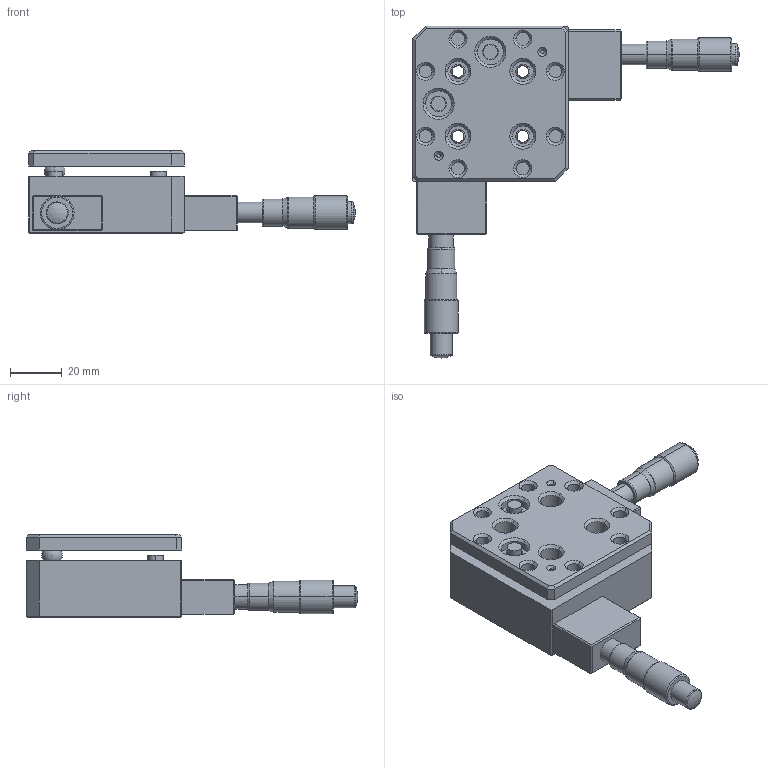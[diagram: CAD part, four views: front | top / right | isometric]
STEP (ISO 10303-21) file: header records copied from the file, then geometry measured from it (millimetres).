
FILE_DESCRIPTION (( 'STEP AP214' ), '1' );
FILE_NAME ('PT-QX04.STEP', '2022-09-17T06:27:34', ( '' ), ( '' ), 'SwSTEP 2.0', 'SolidWorks 2017', '' );
FILE_SCHEMA (( 'AUTOMOTIVE_DESIGN' ));
Length unit declared in the file: millimetre
Products named in the file (1): PT-QX04
Bounding box: 126 x 128 x 32 mm (x, y, z)
Surface area: 29529.7 mm2 (no closed solid volume)
Topology: 0 solids, 4 shells, 224 faces, 566 edges, 360 vertices
Faces by surface type: cylinder 76, plane 73, cone 48, torus 22, sphere 5
Entity records: 7807 total; most frequent: CARTESIAN_POINT 2185, DIRECTION 1259, ORIENTED_EDGE 1078, EDGE_CURVE 560, AXIS2_PLACEMENT_3D 498, VERTEX_POINT 356, EDGE_LOOP 285, CIRCLE 273
